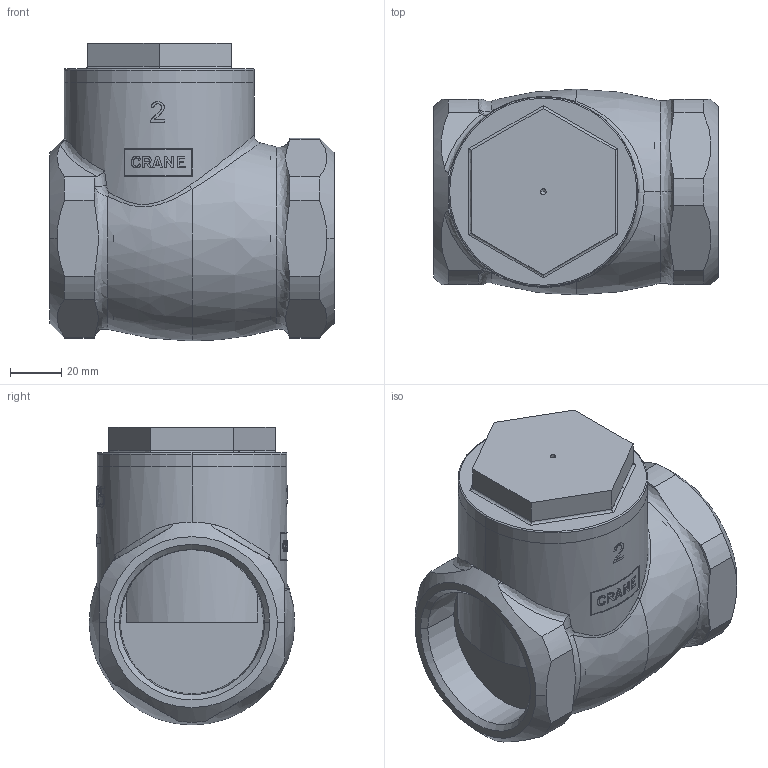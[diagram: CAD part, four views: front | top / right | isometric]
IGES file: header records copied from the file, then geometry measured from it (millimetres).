
Global section: file name: No Iges File Name specified; native system: AutoDesk Inventor R12.0; preprocessor: AutoDesk Inventor Iges Exporter R12.0; date: 20110303.102904; units: millimetre
Bounding box: 110.5 x 79.98 x 115.9 mm (x, y, z)
Volume: 501166.9 mm3; surface area: 65202.5 mm2
Topology: 1 solids, 2 shells, 436 faces, 1185 edges, 783 vertices
Faces by surface type: bspline 221, plane 135, cylinder 35, revolution 27, cone 16, torus 2
